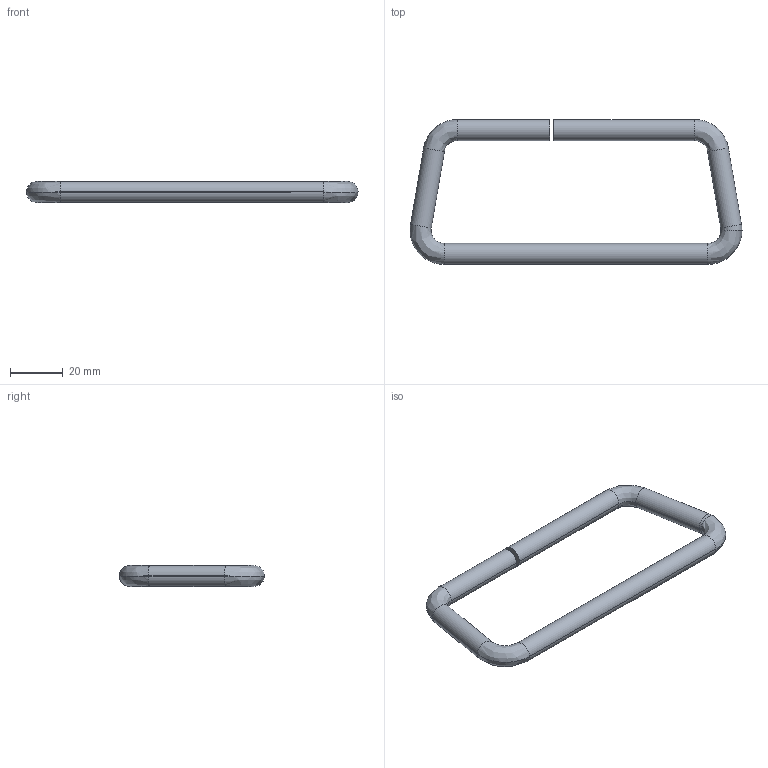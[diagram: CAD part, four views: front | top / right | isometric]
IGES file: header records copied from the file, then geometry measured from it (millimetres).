
Start section: SolidWorks IGES FILE using analytic representation for surfaces
Global section: file name: C:\Documents and Settings\lecoutey\Bureau\PR 316\316.030.00.IGS; native system: SolidWorks 2004 by SolidWorks Corporation; preprocessor: Version 5.3; author: lecoutey; date: 050408.145607; units: millimetre
Bounding box: 126 x 55 x 8 mm (x, y, z)
Surface area: 7738.5 mm2 (no closed solid volume)
Topology: 0 solids, 0 shells, 22 faces, 144 edges, 144 vertices
Faces by surface type: bspline 12, revolution 10
